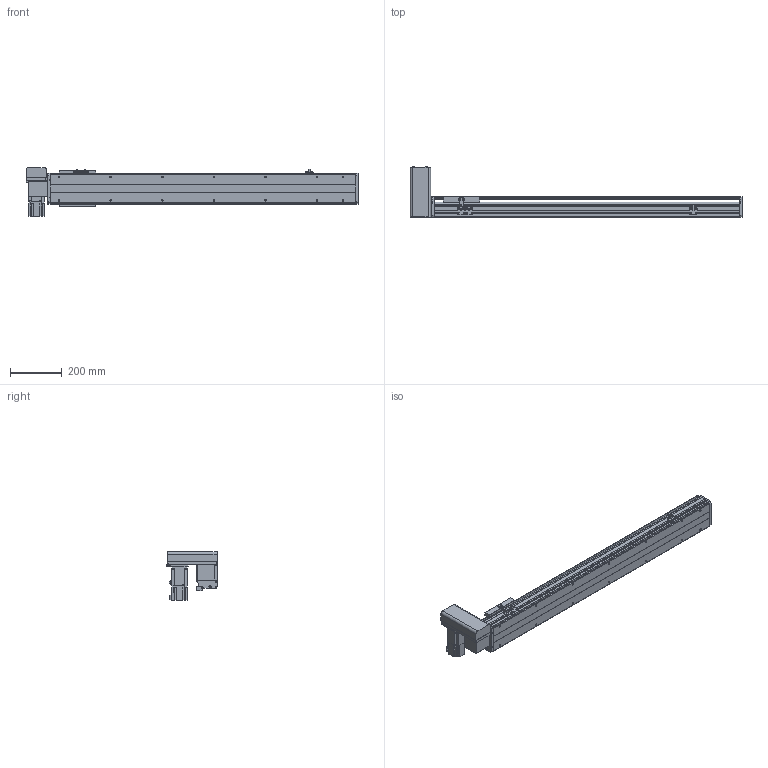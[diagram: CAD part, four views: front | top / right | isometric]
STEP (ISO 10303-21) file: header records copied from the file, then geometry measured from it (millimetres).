
FILE_DESCRIPTION( ( 'STEP AP214' ), '1' );
FILE_NAME( 'x:/temp/worker_27/temp/exporttempdir_6708_230_DYcL9/format_0/PBS120-P40-S900-RU-T40-C1-N(0).stp', '2022-06-06T00:49:23', ( 'License CC BY-ND 4.0' ), ( 'CADENAS' ), ' ', 'PARTsolutions', ' ' );
FILE_SCHEMA( ( 'AUTOMOTIVE_DESIGN { 1 0 10303 214 1 1 1 1 }' ) );
Length unit declared in the file: millimetre
Products named in the file (7): PBS120-P40-S900-RU-T40-C1-N(0); _PBS120-S900()_body; _PBS120T-RU_motors; _T40-p1; _PBS120_sliser; _PBS120_plant; _PBS120_sensor
Assembly tree (8 placements, depth 2):
  PBS120-P40-S900-RU-T40-C1-N(0)
    _PBS120-S900()_body
    _PBS120T-RU_motors
    _T40-p1
    _PBS120_sliser
    _PBS120_plant
    _PBS120_sensor  x3
Bounding box: 1286 x 198 x 189.7 mm (x, y, z)
Volume: 5635695.3 mm3; surface area: 1092004.4 mm2
Topology: 8 solids, 8 shells, 822 faces, 2146 edges, 1381 vertices
Faces by surface type: plane 547, cylinder 227, cone 46, torus 2
Full cylindrical faces by diameter (mm): 2.459 x6, 3.242 x4, 4 x2, 4.134 x4, 4.5 x10, 4.917 x18, 5.5 x11, 6 x2, 6.6 x1, 7 x2, 8.5 x4, 9 x4, 12 x1, 14 x1, 30 x2, 40 x1, 50 x2
Entity records: 27156 total; most frequent: DIRECTION 3716, CARTESIAN_POINT 3659, ORIENTED_EDGE 3490, EDGE_CURVE 1745, AXIS2_PLACEMENT_3D 1244, LINE 1228, VECTOR 1228, VERTEX_POINT 1187
